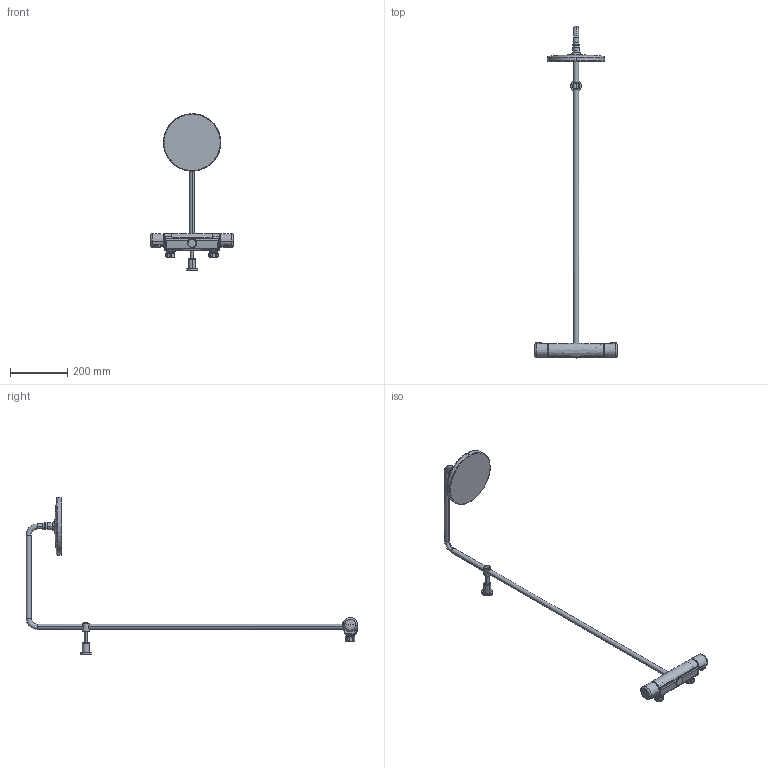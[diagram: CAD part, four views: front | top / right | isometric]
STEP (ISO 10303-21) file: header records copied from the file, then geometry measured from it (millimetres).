
FILE_DESCRIPTION (( 'STEP AP203' ), '1' );
FILE_NAME ('7400(2020).STEP', '2019-09-10T08:30:30', ( '' ), ( '' ), 'SwSTEP 2.0', 'SolidWorks 2016', '' );
FILE_SCHEMA (( 'CONFIG_CONTROL_DESIGN' ));
Length unit declared in the file: millimetre
Products named in the file (1): 7400(2020)
Bounding box: 290.4 x 1156.78 x 545.7 mm (x, y, z)
Volume: 1380689.1 mm3; surface area: 273117.3 mm2
Topology: 1 solids, 5 shells, 581 faces, 1393 edges, 830 vertices
Faces by surface type: cylinder 167, bspline 164, plane 106, cone 59, torus 44, sphere 41
Entity records: 25878 total; most frequent: CARTESIAN_POINT 13771, ORIENTED_EDGE 2754, DIRECTION 2243, EDGE_CURVE 1377, AXIS2_PLACEMENT_3D 963, VERTEX_POINT 828, EDGE_LOOP 607, FACE_OUTER_BOUND 581
